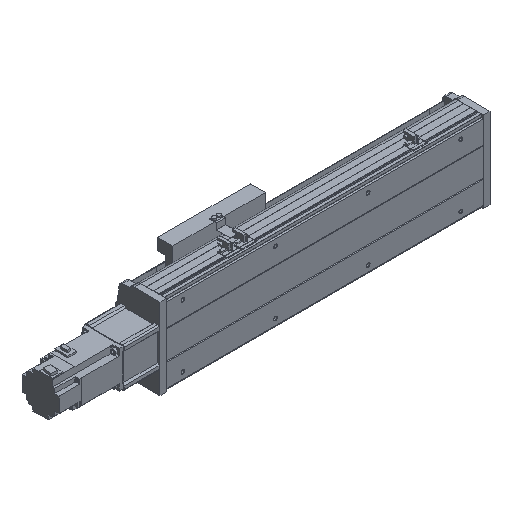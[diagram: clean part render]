
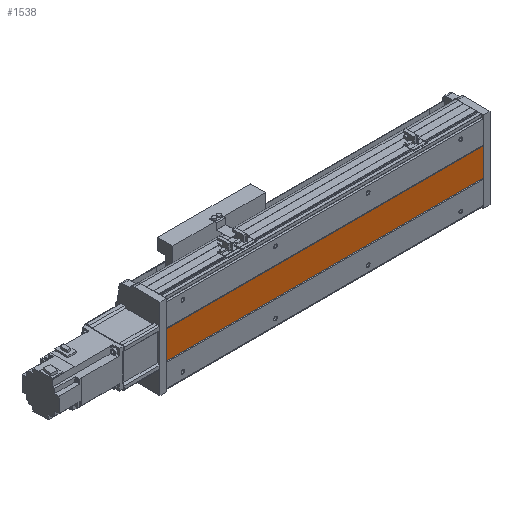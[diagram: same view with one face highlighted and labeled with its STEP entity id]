
A CAD part, isometric view. The second image highlights one B-rep face of the part: STEP entity #1538.
In plain terms, the highlighted planar face has unit normal (0, -1, 0).
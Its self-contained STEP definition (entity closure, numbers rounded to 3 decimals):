
#1538 = ADVANCED_FACE( '', ( #3178 ), #3179, .F. );
#3178 = FACE_OUTER_BOUND( '', #4879, .T. );
#3179 = PLANE( '', #4880 );
#4879 = EDGE_LOOP( '', ( #8996, #8997, #8998, #8999 ) );
#4880 = AXIS2_PLACEMENT_3D( '', #9000, #9001, #9002 );
#8996 = ORIENTED_EDGE( '', *, *, #9989, .F. );
#8997 = ORIENTED_EDGE( '', *, *, #10938, .T. );
#8998 = ORIENTED_EDGE( '', *, *, #10805, .T. );
#8999 = ORIENTED_EDGE( '', *, *, #10678, .F. );
#9000 = CARTESIAN_POINT( '', ( 713., 1., 30. ) );
#9001 = DIRECTION( '', ( 0., 1., 0. ) );
#9002 = DIRECTION( '', ( 0., 0., 1. ) );
#9989 = EDGE_CURVE( '', #11913, #11915, #11916, .T. );
#10678 = EDGE_CURVE( '', #11915, #13093, #13094, .T. );
#10805 = EDGE_CURVE( '', #13294, #13093, #13295, .T. );
#10938 = EDGE_CURVE( '', #11913, #13294, #13481, .T. );
#11913 = VERTEX_POINT( '', #14714 );
#11915 = VERTEX_POINT( '', #14717 );
#11916 = LINE( '', #14718, #14719 );
#13093 = VERTEX_POINT( '', #16413 );
#13094 = LINE( '', #16414, #16415 );
#13294 = VERTEX_POINT( '', #16704 );
#13295 = LINE( '', #16705, #16706 );
#13481 = LINE( '', #16968, #16969 );
#14714 = CARTESIAN_POINT( '', ( 699., 1., 30. ) );
#14717 = CARTESIAN_POINT( '', ( 699., 1., -30. ) );
#14718 = CARTESIAN_POINT( '', ( 699., 1., 30. ) );
#14719 = VECTOR( '', #18391, 1000. );
#16413 = CARTESIAN_POINT( '', ( 14., 1., -30. ) );
#16414 = CARTESIAN_POINT( '', ( 713., 1., -30. ) );
#16415 = VECTOR( '', #19170, 1000. );
#16704 = CARTESIAN_POINT( '', ( 14., 1., 30. ) );
#16705 = CARTESIAN_POINT( '', ( 14., 1., 30. ) );
#16706 = VECTOR( '', #19326, 1000. );
#16968 = CARTESIAN_POINT( '', ( 713., 1., 30. ) );
#16969 = VECTOR( '', #19451, 1000. );
#18391 = DIRECTION( '', ( 0., 0., -1. ) );
#19170 = DIRECTION( '', ( -1., 0., 0. ) );
#19326 = DIRECTION( '', ( 0., 0., -1. ) );
#19451 = DIRECTION( '', ( -1., 0., 0. ) );
